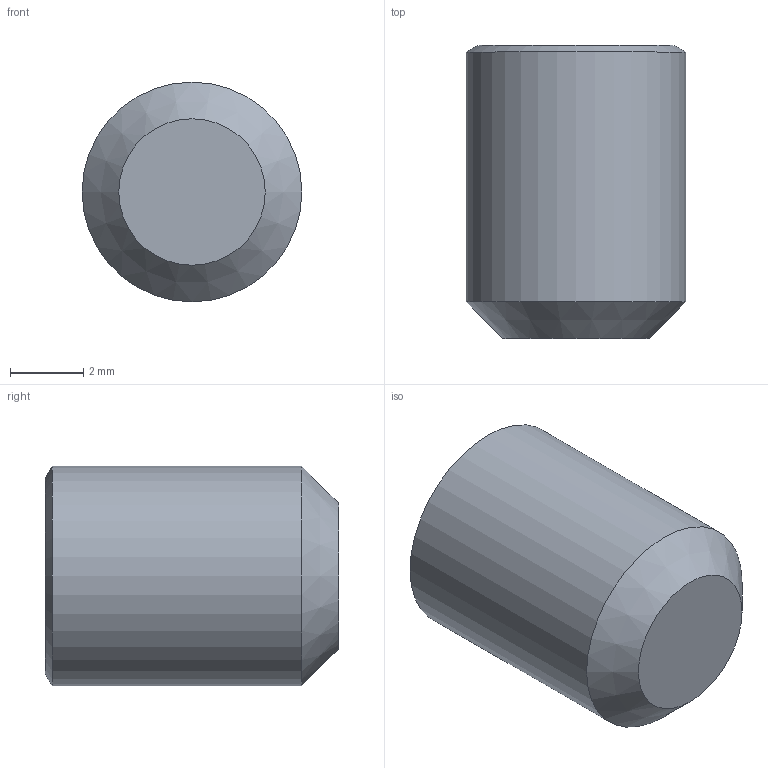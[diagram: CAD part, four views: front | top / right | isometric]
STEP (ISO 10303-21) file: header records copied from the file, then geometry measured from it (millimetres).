
FILE_DESCRIPTION(/* description */ (''),/* implementation_level */ '2;1');
FILE_NAME(/* name */ 'C:\Users\D\Documents\Inventor\各種小物\JIS\止めねじ\平先\M6\M6x8.stp',/* time_stamp */ '2022-06-23T14:26:13+09:00',/* author */ ('D'),/* organization */ (''),/* preprocessor_version */ 'ST-DEVELOPER v18',/* originating_system */ 'Autodesk Inventor 2020',/* authorisation */ '');
FILE_SCHEMA (('AUTOMOTIVE_DESIGN { 1 0 10303 214 3 1 1 }'));
Length unit declared in the file: millimetre
Products named in the file (1): M1.6x2
Bounding box: 6 x 8 x 6 mm (x, y, z)
Volume: 187 mm3; surface area: 231 mm2
Topology: 1 solids, 1 shells, 12 faces, 28 edges, 18 vertices
Faces by surface type: plane 8, cone 3, cylinder 1
Full cylindrical faces by diameter (mm): 6 x1
Entity records: 369 total; most frequent: CARTESIAN_POINT 72, ORIENTED_EDGE 54, DIRECTION 50, EDGE_CURVE 27, VERTEX_POINT 18, AXIS2_PLACEMENT_3D 17, LINE 16, VECTOR 16
